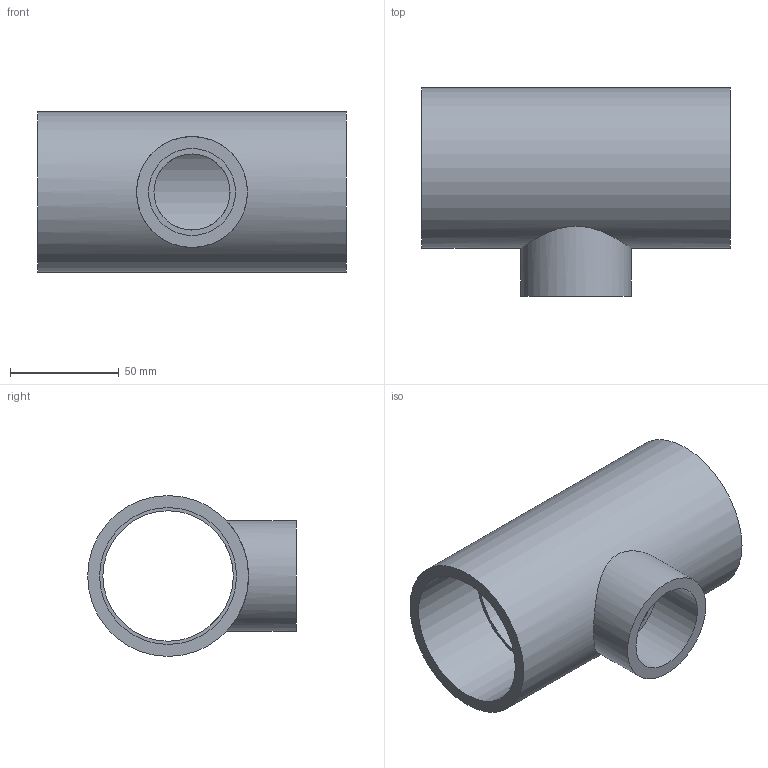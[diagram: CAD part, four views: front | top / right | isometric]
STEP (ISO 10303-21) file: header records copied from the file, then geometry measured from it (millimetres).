
FILE_DESCRIPTION(/* description */ ('PVC ti a 90° ridotto incollaggio metrico'),/* implementation_level */ '2;1');
FILE_NAME(/* name */ 'C:\Users\POLYPIPE\Desktop\DATASET INVENTOR\LIBRERIA EFFAST\RACCORDI 3DxWEB\RDR\3D_RDRTRD\3D_RDRTRD063E.stp',/* time_stamp */ '2018-01-19T15:47:44+01:00',/* author */ ('POLYPIPE'),/* organization */ ('Polypipe Italia s.r.l.'),/* preprocessor_version */ 'ST-DEVELOPER v16.1',/* originating_system */ 'Autodesk Inventor 2016',/* authorisation */ '');
FILE_SCHEMA (('CONFIG_CONTROL_DESIGN'));
Length unit declared in the file: millimetre
Products named in the file (1): 3D_RDRTRD
Bounding box: 142 x 96 x 74 mm (x, y, z)
Volume: 200126.8 mm3; surface area: 69536.5 mm2
Topology: 1 solids, 1 shells, 13 faces, 23 edges, 16 vertices
Faces by surface type: cylinder 7, plane 6
Full cylindrical faces by diameter (mm): 35 x1, 40 x1, 51 x1, 60 x1, 63 x2, 74 x1
Entity records: 422 total; most frequent: CARTESIAN_POINT 164, DIRECTION 52, EDGE_LOOP 28, ORIENTED_EDGE 28, AXIS2_PLACEMENT_3D 26, FACE_BOUND 15, VERTEX_POINT 14, EDGE_CURVE 14
